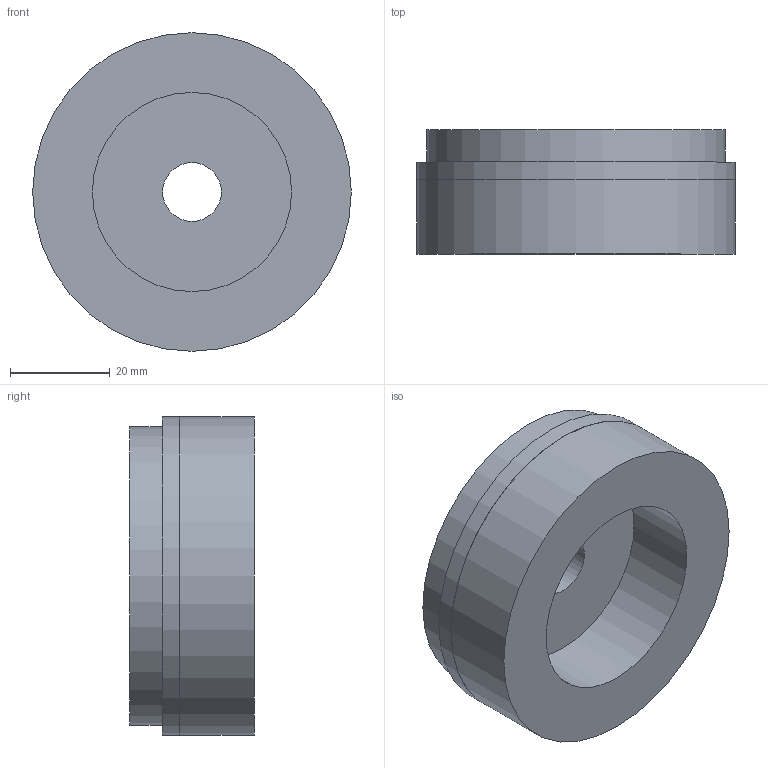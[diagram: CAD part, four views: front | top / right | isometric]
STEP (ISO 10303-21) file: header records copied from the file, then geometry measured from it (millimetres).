
FILE_DESCRIPTION (( 'STEP AP214' ), '1' );
FILE_NAME ('10FF.064.003.15N.STEP', '2026-03-25T17:53:59', ( '' ), ( '' ), 'SwSTEP 2.0', 'SolidWorks 2025', '' );
FILE_SCHEMA (( 'AUTOMOTIVE_DESIGN' ));
Length unit declared in the file: millimetre
Products named in the file (1): 10FF.064.003.15N
Bounding box: 64 x 25 x 64 mm (x, y, z)
Volume: 57941 mm3; surface area: 13514.6 mm2
Topology: 1 solids, 1 shells, 13 faces, 21 edges, 14 vertices
Faces by surface type: cylinder 6, plane 6, cone 1
Full cylindrical faces by diameter (mm): 11.8 x1, 40 x1, 60 x1, 63.453 x1, 64 x2
Entity records: 291 total; most frequent: DIRECTION 54, CARTESIAN_POINT 40, AXIS2_PLACEMENT_3D 27, EDGE_LOOP 26, ORIENTED_EDGE 26, FACE_OUTER_BOUND 19, EDGE_CURVE 13, ADVANCED_FACE 13
